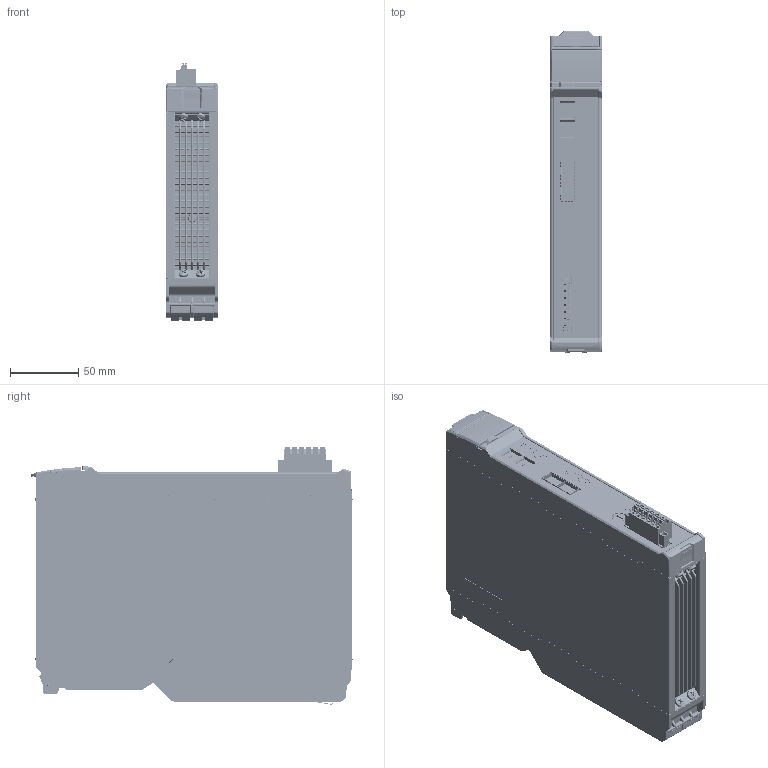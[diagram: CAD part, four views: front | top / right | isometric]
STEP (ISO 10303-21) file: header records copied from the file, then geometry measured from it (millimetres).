
FILE_DESCRIPTION (( 'STEP AP214' ), '1' );
FILE_NAME ('66.023.201-3_HX8325.STEP', '2026-09-25T17:51:26', ( '' ), ( '' ), 'SwSTEP 2.0', 'SolidWorks 2022', '' );
FILE_SCHEMA (( 'AUTOMOTIVE_DESIGN' ));
Length unit declared in the file: millimetre
Products named in the file (25): 01.100.278-5(Valor predeterminado); 01.000.040-1(Orelha quebrada (uso inferior no módulo)); 01.100.282-3(Valor predeterminado); Parafusos Altus(M2.5x08 F.CRUZ C.CHA ZB MITTOPLASTIC - 00.400.305-4); TE_2007263-1^00.701.371-9; 1000-033.0(pré-tensionado); 00.303.108-9; 1000-034.8(1000-034.8); 00.700.580-5; 01.100.305-6_arte^01.100.305-6; 1000-045.3(Valor predeterminado); 00.303.109-7; Parafusos Altus(M3x06 F.CRUZ C.CH INOX - 00.400.093-4); 01.100.277-7; 01.100.264-5(Valor predeterminado); Parafusos Altus(M3.5x08 F.CRUZ C.PAN ZB MITTOPLASTIC - 00.400.307-0); corpo^00.600.054-0; 66.023.201-3_HX8325; seta^00.600.054-0; 01.000.046-0; 01.000.040-1(Valor predeterminado); 01.100.281-5(Valor predeterminado); 01.100.304-8(Valor predeterminado); 01.100.280-7; 00.300.804-4
Assembly tree (42 placements, depth 2):
  66.023.201-3_HX8325
    TE_2007263-1^00.701.371-9
    corpo^00.600.054-0  x2
    seta^00.600.054-0  x2
    00.303.108-9
    00.700.580-5
    00.300.804-4  x2
    01.100.304-8(Valor predeterminado)
    01.100.305-6_arte^01.100.305-6
    01.100.282-3(Valor predeterminado)
    01.000.040-1(Valor predeterminado)
    01.100.278-5(Valor predeterminado)
    Parafusos Altus(M2.5x08 F.CRUZ C.CHA ZB MITTOPLASTIC - 00.400.305-4)  x2
    01.000.040-1(Orelha quebrada (uso inferior no módulo))
    01.100.281-5(Valor predeterminado)
    1000-033.0(pré-tensionado)  x2
    01.100.264-5(Valor predeterminado)  x2
    1000-045.3(Valor predeterminado)  x2
    1000-034.8(1000-034.8)  x2
    Parafusos Altus(M3.5x08 F.CRUZ C.PAN ZB MITTOPLASTIC - 00.400.307-0)  x8
    01.000.046-0
    Parafusos Altus(M3x06 F.CRUZ C.CH INOX - 00.400.093-4)  x4
    01.100.277-7
    01.100.280-7
    00.303.109-7
Bounding box: 38 x 235.96 x 188.9 mm (x, y, z)
Volume: 1332394.4 mm3; surface area: 367699.9 mm2
Topology: 91 solids, 98 shells, 9942 faces, 28613 edges, 18660 vertices
Faces by surface type: plane 5913, cylinder 2635, bspline 1100, sphere 140, cone 102, torus 52
Entity records: 301409 total; most frequent: CARTESIAN_POINT 86401, ORIENTED_EDGE 48338, DIRECTION 36682, EDGE_CURVE 24220, VECTOR 16516, LINE 16516, VERTEX_POINT 15808, AXIS2_PLACEMENT_3D 10083
